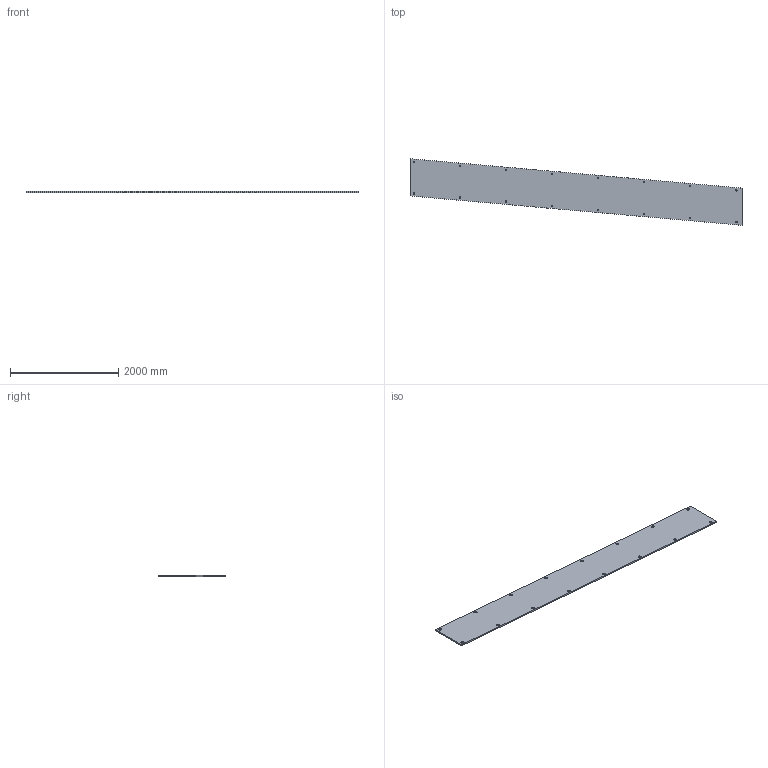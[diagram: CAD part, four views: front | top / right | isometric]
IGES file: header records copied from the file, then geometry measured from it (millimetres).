
Start section:  PTC IGES file: fr_dr_trk_r.igs
Global section: file name: fr_dr_trk_r.igs; native system: Pro/ENGINEER by Parametric Technology Corporation; preprocessor: 1999260; author: oshatz; organization: Unknown; date: 000922.101823; units: millimetre
Bounding box: 6125 x 1229.43 x 25.4 mm (x, y, z)
Surface area: 8804344.9 mm2 (no closed solid volume)
Topology: 0 solids, 0 shells, 86 faces, 408 edges, 408 vertices
Faces by surface type: revolution 64, bspline 22
